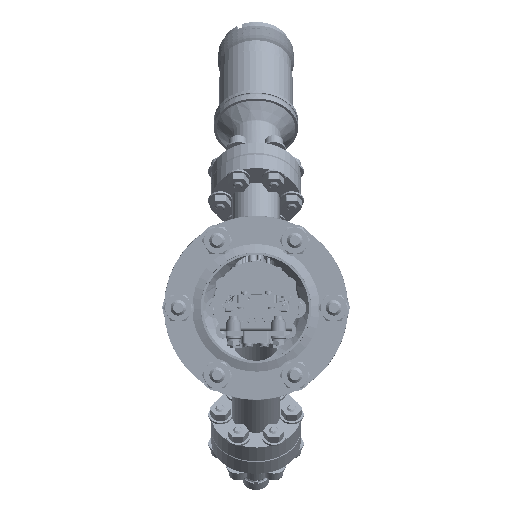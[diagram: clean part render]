
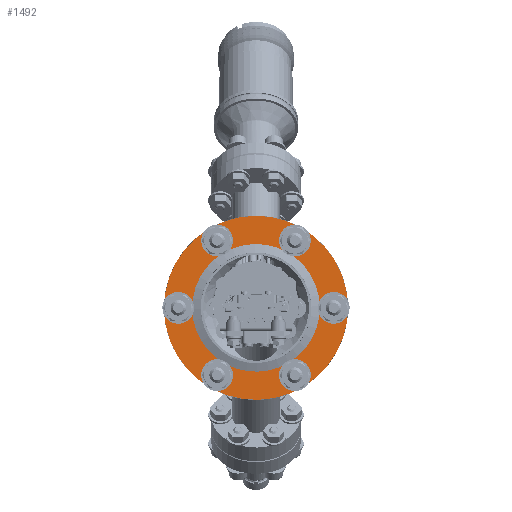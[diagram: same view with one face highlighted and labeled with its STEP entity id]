
A CAD part, left-side view. The second image highlights one B-rep face of the part: STEP entity #1492.
In plain terms, the highlighted planar face has unit normal (-1, 0, 0).
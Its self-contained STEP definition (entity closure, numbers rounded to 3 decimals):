
#957=AXIS2_PLACEMENT_3D('Circle Axis2P3D',#955,#956,$) ;
#1208=AXIS2_PLACEMENT_3D('Circle Axis2P3D',#1206,#1207,$) ;
#1360=AXIS2_PLACEMENT_3D('Plane Axis2P3D',#1357,#1358,#1359) ;
#1368=AXIS2_PLACEMENT_3D('Circle Axis2P3D',#1366,#1367,$) ;
#1377=AXIS2_PLACEMENT_3D('Circle Axis2P3D',#1375,#1376,$) ;
#1386=AXIS2_PLACEMENT_3D('Circle Axis2P3D',#1384,#1385,$) ;
#1395=AXIS2_PLACEMENT_3D('Circle Axis2P3D',#1393,#1394,$) ;
#1404=AXIS2_PLACEMENT_3D('Circle Axis2P3D',#1402,#1403,$) ;
#1413=AXIS2_PLACEMENT_3D('Circle Axis2P3D',#1411,#1412,$) ;
#1422=AXIS2_PLACEMENT_3D('Circle Axis2P3D',#1420,#1421,$) ;
#1431=AXIS2_PLACEMENT_3D('Circle Axis2P3D',#1429,#1430,$) ;
#1440=AXIS2_PLACEMENT_3D('Circle Axis2P3D',#1438,#1439,$) ;
#1449=AXIS2_PLACEMENT_3D('Circle Axis2P3D',#1447,#1448,$) ;
#1458=AXIS2_PLACEMENT_3D('Circle Axis2P3D',#1456,#1457,$) ;
#1467=AXIS2_PLACEMENT_3D('Circle Axis2P3D',#1465,#1466,$) ;
#1476=AXIS2_PLACEMENT_3D('Circle Axis2P3D',#1474,#1475,$) ;
#1485=AXIS2_PLACEMENT_3D('Circle Axis2P3D',#1483,#1484,$) ;
#952=CARTESIAN_POINT('Vertex',(0.,30.496,16.66)) ;
#955=CARTESIAN_POINT('Axis2P3D Location',(0.,0.,0.)) ;
#959=CARTESIAN_POINT('Vertex',(0.,-30.496,-16.66)) ;
#1206=CARTESIAN_POINT('Axis2P3D Location',(0.,0.,0.)) ;
#1357=CARTESIAN_POINT('Axis2P3D Location',(0.,24.1,0.)) ;
#1366=CARTESIAN_POINT('Axis2P3D Location',(0.,-29.35,0.)) ;
#1370=CARTESIAN_POINT('Vertex',(0.,-32.202,-1.558)) ;
#1372=CARTESIAN_POINT('Vertex',(0.,-26.498,1.558)) ;
#1375=CARTESIAN_POINT('Axis2P3D Location',(0.,-29.35,0.)) ;
#1384=CARTESIAN_POINT('Axis2P3D Location',(0.,0.,0.)) ;
#1388=CARTESIAN_POINT('Vertex',(0.,-21.15,-11.554)) ;
#1390=CARTESIAN_POINT('Vertex',(0.,21.15,11.554)) ;
#1393=CARTESIAN_POINT('Axis2P3D Location',(0.,0.,0.)) ;
#1402=CARTESIAN_POINT('Axis2P3D Location',(0.,-14.675,-25.418)) ;
#1406=CARTESIAN_POINT('Vertex',(0.,-11.823,-23.86)) ;
#1408=CARTESIAN_POINT('Vertex',(0.,-17.527,-26.976)) ;
#1411=CARTESIAN_POINT('Axis2P3D Location',(0.,-14.675,-25.418)) ;
#1420=CARTESIAN_POINT('Axis2P3D Location',(0.,14.675,-25.418)) ;
#1424=CARTESIAN_POINT('Vertex',(0.,17.527,-23.86)) ;
#1426=CARTESIAN_POINT('Vertex',(0.,11.823,-26.976)) ;
#1429=CARTESIAN_POINT('Axis2P3D Location',(0.,14.675,-25.418)) ;
#1438=CARTESIAN_POINT('Axis2P3D Location',(0.,29.35,0.)) ;
#1442=CARTESIAN_POINT('Vertex',(0.,32.202,1.558)) ;
#1444=CARTESIAN_POINT('Vertex',(0.,26.498,-1.558)) ;
#1447=CARTESIAN_POINT('Axis2P3D Location',(0.,29.35,0.)) ;
#1456=CARTESIAN_POINT('Axis2P3D Location',(0.,14.675,25.418)) ;
#1460=CARTESIAN_POINT('Vertex',(0.,17.527,26.976)) ;
#1462=CARTESIAN_POINT('Vertex',(0.,11.823,23.86)) ;
#1465=CARTESIAN_POINT('Axis2P3D Location',(0.,14.675,25.418)) ;
#1474=CARTESIAN_POINT('Axis2P3D Location',(0.,-14.675,25.418)) ;
#1478=CARTESIAN_POINT('Vertex',(0.,-11.823,26.976)) ;
#1480=CARTESIAN_POINT('Vertex',(0.,-17.527,23.86)) ;
#1483=CARTESIAN_POINT('Axis2P3D Location',(0.,-14.675,25.418)) ;
#956=DIRECTION('Axis2P3D Direction',(1.,0.,0.)) ;
#1207=DIRECTION('Axis2P3D Direction',(1.,0.,0.)) ;
#1358=DIRECTION('Axis2P3D Direction',(1.,0.,0.)) ;
#1359=DIRECTION('Axis2P3D XDirection',(0.,1.,0.)) ;
#1367=DIRECTION('Axis2P3D Direction',(1.,0.,0.)) ;
#1376=DIRECTION('Axis2P3D Direction',(1.,0.,0.)) ;
#1385=DIRECTION('Axis2P3D Direction',(1.,0.,0.)) ;
#1394=DIRECTION('Axis2P3D Direction',(1.,0.,0.)) ;
#1403=DIRECTION('Axis2P3D Direction',(1.,0.,0.)) ;
#1412=DIRECTION('Axis2P3D Direction',(1.,0.,0.)) ;
#1421=DIRECTION('Axis2P3D Direction',(1.,0.,0.)) ;
#1430=DIRECTION('Axis2P3D Direction',(1.,0.,0.)) ;
#1439=DIRECTION('Axis2P3D Direction',(1.,0.,0.)) ;
#1448=DIRECTION('Axis2P3D Direction',(1.,0.,0.)) ;
#1457=DIRECTION('Axis2P3D Direction',(1.,0.,0.)) ;
#1466=DIRECTION('Axis2P3D Direction',(1.,0.,0.)) ;
#1475=DIRECTION('Axis2P3D Direction',(1.,0.,0.)) ;
#1484=DIRECTION('Axis2P3D Direction',(1.,0.,0.)) ;
#1363=ORIENTED_EDGE('',*,*,#961,.F.) ;
#1364=ORIENTED_EDGE('',*,*,#1210,.F.) ;
#1381=ORIENTED_EDGE('',*,*,#1374,.T.) ;
#1382=ORIENTED_EDGE('',*,*,#1379,.T.) ;
#1399=ORIENTED_EDGE('',*,*,#1392,.T.) ;
#1400=ORIENTED_EDGE('',*,*,#1397,.T.) ;
#1417=ORIENTED_EDGE('',*,*,#1410,.T.) ;
#1418=ORIENTED_EDGE('',*,*,#1415,.T.) ;
#1435=ORIENTED_EDGE('',*,*,#1428,.T.) ;
#1436=ORIENTED_EDGE('',*,*,#1433,.T.) ;
#1453=ORIENTED_EDGE('',*,*,#1446,.T.) ;
#1454=ORIENTED_EDGE('',*,*,#1451,.T.) ;
#1471=ORIENTED_EDGE('',*,*,#1464,.T.) ;
#1472=ORIENTED_EDGE('',*,*,#1469,.T.) ;
#1489=ORIENTED_EDGE('',*,*,#1482,.T.) ;
#1490=ORIENTED_EDGE('',*,*,#1487,.T.) ;
#1383=FACE_BOUND('',#1380,.T.) ;
#1401=FACE_BOUND('',#1398,.T.) ;
#1419=FACE_BOUND('',#1416,.T.) ;
#1437=FACE_BOUND('',#1434,.T.) ;
#1455=FACE_BOUND('',#1452,.T.) ;
#1473=FACE_BOUND('',#1470,.T.) ;
#1491=FACE_BOUND('',#1488,.T.) ;
#1492=ADVANCED_FACE('Hauptk\X2\00F6\X0\rper',(#1365,#1383,#1401,#1419,#1437,#1455,#1473,#1491),#1361,.F.) ;
#958=CIRCLE('generated circle',#957,34.75) ;
#1209=CIRCLE('generated circle',#1208,34.75) ;
#1369=CIRCLE('generated circle',#1368,3.25) ;
#1378=CIRCLE('generated circle',#1377,3.25) ;
#1387=CIRCLE('generated circle',#1386,24.1) ;
#1396=CIRCLE('generated circle',#1395,24.1) ;
#1405=CIRCLE('generated circle',#1404,3.25) ;
#1414=CIRCLE('generated circle',#1413,3.25) ;
#1423=CIRCLE('generated circle',#1422,3.25) ;
#1432=CIRCLE('generated circle',#1431,3.25) ;
#1441=CIRCLE('generated circle',#1440,3.25) ;
#1450=CIRCLE('generated circle',#1449,3.25) ;
#1459=CIRCLE('generated circle',#1458,3.25) ;
#1468=CIRCLE('generated circle',#1467,3.25) ;
#1477=CIRCLE('generated circle',#1476,3.25) ;
#1486=CIRCLE('generated circle',#1485,3.25) ;
#961=EDGE_CURVE('',#953,#960,#958,.T.) ;
#1210=EDGE_CURVE('',#960,#953,#1209,.T.) ;
#1374=EDGE_CURVE('',#1371,#1373,#1369,.T.) ;
#1379=EDGE_CURVE('',#1373,#1371,#1378,.T.) ;
#1392=EDGE_CURVE('',#1389,#1391,#1387,.T.) ;
#1397=EDGE_CURVE('',#1391,#1389,#1396,.T.) ;
#1410=EDGE_CURVE('',#1407,#1409,#1405,.T.) ;
#1415=EDGE_CURVE('',#1409,#1407,#1414,.T.) ;
#1428=EDGE_CURVE('',#1425,#1427,#1423,.T.) ;
#1433=EDGE_CURVE('',#1427,#1425,#1432,.T.) ;
#1446=EDGE_CURVE('',#1443,#1445,#1441,.T.) ;
#1451=EDGE_CURVE('',#1445,#1443,#1450,.T.) ;
#1464=EDGE_CURVE('',#1461,#1463,#1459,.T.) ;
#1469=EDGE_CURVE('',#1463,#1461,#1468,.T.) ;
#1482=EDGE_CURVE('',#1479,#1481,#1477,.T.) ;
#1487=EDGE_CURVE('',#1481,#1479,#1486,.T.) ;
#1362=EDGE_LOOP('',(#1363,#1364)) ;
#1380=EDGE_LOOP('',(#1381,#1382)) ;
#1398=EDGE_LOOP('',(#1399,#1400)) ;
#1416=EDGE_LOOP('',(#1417,#1418)) ;
#1434=EDGE_LOOP('',(#1435,#1436)) ;
#1452=EDGE_LOOP('',(#1453,#1454)) ;
#1470=EDGE_LOOP('',(#1471,#1472)) ;
#1488=EDGE_LOOP('',(#1489,#1490)) ;
#1365=FACE_OUTER_BOUND('',#1362,.T.) ;
#1361=PLANE('',#1360) ;
#953=VERTEX_POINT('',#952) ;
#960=VERTEX_POINT('',#959) ;
#1371=VERTEX_POINT('',#1370) ;
#1373=VERTEX_POINT('',#1372) ;
#1389=VERTEX_POINT('',#1388) ;
#1391=VERTEX_POINT('',#1390) ;
#1407=VERTEX_POINT('',#1406) ;
#1409=VERTEX_POINT('',#1408) ;
#1425=VERTEX_POINT('',#1424) ;
#1427=VERTEX_POINT('',#1426) ;
#1443=VERTEX_POINT('',#1442) ;
#1445=VERTEX_POINT('',#1444) ;
#1461=VERTEX_POINT('',#1460) ;
#1463=VERTEX_POINT('',#1462) ;
#1479=VERTEX_POINT('',#1478) ;
#1481=VERTEX_POINT('',#1480) ;
